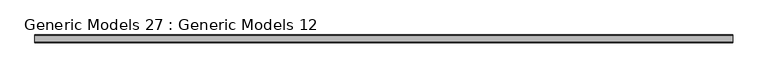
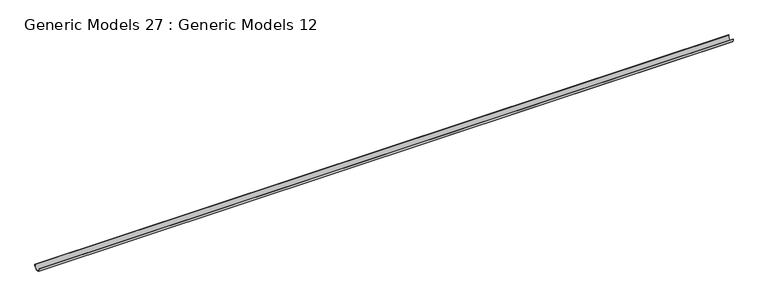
"""IFC4 building model written with IfcOpenShell, lengths in millimetres: proxy geometry, Generic Models 27 : Generic Models 12."""

import ifcopenshell
import ifcopenshell.guid

model = None  # the IFC model being written
_history = None  # IfcOwnerHistory: only IFC2X3 demands one
_inside = {}  # id of a spatial element -> (the spatial element, [elements in it])
_under = {}  # id of a project, library or spatial element -> (it, [spatial elements below it])
_declared = {}  # id of a project -> (the project, [libraries it declares])
_typed = {}  # id of a type object -> (the type object, [elements of that type])
_made_of = {}  # id of a material, layer set ... -> (it, [elements and type objects made of it])


def new_model(schema):
    """Start an empty IFC model of exactly this schema.

    Asked for "IFC4X3", IfcOpenShell would pick the latest addendum, in which some entities
    have other attributes; the version numbers below select the first issue.
    IFC2X3 requires an IfcOwnerHistory on every rooted entity: one is made here for all.
    """
    global model, _history
    if schema == "IFC4X3":
        model = ifcopenshell.file(schema_version=(4, 3, 0, 0))
    else:
        model = ifcopenshell.file(schema=schema)
    _inside.clear()
    _under.clear()
    _declared.clear()
    _typed.clear()
    _made_of.clear()
    _history = None
    if model.schema == "IFC2X3":
        org = make("IfcOrganization", Name="unknown")
        user = make(
            "IfcPersonAndOrganization",
            ThePerson=make("IfcPerson", FamilyName="unknown"),
            TheOrganization=org,
        )
        app = make(
            "IfcApplication",
            ApplicationDeveloper=org,
            Version="unknown",
            ApplicationFullName="unknown",
            ApplicationIdentifier="unknown",
        )
        _history = make(
            "IfcOwnerHistory",
            OwningUser=user,
            OwningApplication=app,
            ChangeAction="ADDED",
            CreationDate=0,
        )
    return model


def make(cls, **values):
    """One entity of the class cls with the attributes given. An attribute that is None is left unset."""
    return model.create_entity(
        cls, **{name: value for name, value in values.items() if value is not None}
    )


def rooted(cls, **values):
    """An entity with a GlobalId (a new one), such as an element, a storey or a relation."""
    return make(cls, GlobalId=ifcopenshell.guid.new(), OwnerHistory=_history, **values)


def si_unit(unit_type, name, prefix=None):
    """IfcSIUnit, for example si_unit("LENGTHUNIT", "METRE", prefix="MILLI")."""
    return make("IfcSIUnit", UnitType=unit_type, Prefix=prefix, Name=name)


def assignment(units):
    """IfcUnitAssignment: the units of a project."""
    return None if units is None else make("IfcUnitAssignment", Units=units)


def point(xyz):
    """IfcCartesianPoint."""
    return None if xyz is None else make("IfcCartesianPoint", Coordinates=xyz)


def direction(xyz):
    """IfcDirection."""
    return None if xyz is None else make("IfcDirection", DirectionRatios=xyz)


def frame(location, z_axis=None, x_axis=None):
    """IfcAxis2Placement3D, a coordinate frame: its origin and axes. An axis left out is left unset."""
    return make(
        "IfcAxis2Placement3D",
        Location=point(location),
        Axis=direction(z_axis),
        RefDirection=direction(x_axis),
    )


def frame_2d(location, x_axis=None):
    """IfcAxis2Placement2D, a coordinate frame in the plane: its origin and x axis."""
    return make(
        "IfcAxis2Placement2D", Location=point(location), RefDirection=direction(x_axis)
    )


def origin():
    """The frame at (0, 0, 0) with its axes left unset."""
    return frame((0.0, 0.0, 0.0))


def place(relative_to, where):
    """IfcLocalPlacement: puts the frame where relative to a parent placement (None: the world)."""
    return make(
        "IfcLocalPlacement", PlacementRelTo=relative_to, RelativePlacement=where
    )


def context(
    kind, dimensions, precision=None, world=None, true_north=None, identifier=None
):
    """IfcGeometricRepresentationContext, for example the 3D "Model" context."""
    return make(
        "IfcGeometricRepresentationContext",
        ContextIdentifier=identifier,
        ContextType=kind,
        CoordinateSpaceDimension=dimensions,
        Precision=precision,
        WorldCoordinateSystem=world,
        TrueNorth=true_north,
    )


def project(units=None, contexts=None):
    """IfcProject with its units and contexts."""
    return rooted(
        "IfcProject",
        Name="project",
        RepresentationContexts=contexts,
        UnitsInContext=assignment(units),
    )


def spatial(cls, under=None, at=None, **own):
    """A site, building, storey or space (cls), placed at a placement, below another one or the project."""
    s = rooted(cls, ObjectPlacement=at, **own)
    if under is not None:
        _under.setdefault(under.id(), (under, []))[1].append(s)
    return s


def polyline(points):
    """IfcPolyline through the points."""
    return make("IfcPolyline", Points=[point(p) for p in points])


def circle_curve(where, radius):
    """IfcCircle in the frame where."""
    return make("IfcCircle", Position=where, Radius=radius)


def trimmed(basis, trim1, trim2, sense, master):
    """IfcTrimmedCurve: the piece of a basis curve between two trims."""
    return make(
        "IfcTrimmedCurve",
        BasisCurve=basis,
        Trim1=trim1,
        Trim2=trim2,
        SenseAgreement=sense,
        MasterRepresentation=master,
    )


def segment(curve, same_sense, transition):
    """IfcCompositeCurveSegment."""
    return make(
        "IfcCompositeCurveSegment",
        Transition=transition,
        SameSense=same_sense,
        ParentCurve=curve,
    )


def composite_curve(segments, self_intersect=None):
    """IfcCompositeCurve: segments joined end to end."""
    return make("IfcCompositeCurve", Segments=segments, SelfIntersect=self_intersect)


def outline(outer, holes=None, kind="AREA"):
    """IfcArbitraryClosedProfileDef: a profile drawn as a closed curve; with holes, ...WithVoids."""
    if holes is None:
        return make("IfcArbitraryClosedProfileDef", ProfileType=kind, OuterCurve=outer)
    return make(
        "IfcArbitraryProfileDefWithVoids",
        ProfileType=kind,
        OuterCurve=outer,
        InnerCurves=holes,
    )


def extrude(swept, where, along, depth):
    """IfcExtrudedAreaSolid: the profile swept, set in the frame where, extruded along a direction by depth."""
    return make(
        "IfcExtrudedAreaSolid",
        SweptArea=swept,
        Position=where,
        ExtrudedDirection=direction(along),
        Depth=depth,
    )


def shape(context_of_items, identifier, shape_type, items):
    """IfcShapeRepresentation: the items that make up one representation, for example the "Body"."""
    return make(
        "IfcShapeRepresentation",
        ContextOfItems=context_of_items,
        RepresentationIdentifier=identifier,
        RepresentationType=shape_type,
        Items=items,
    )


def source(mapping_origin, context_of_items, identifier, shape_type, items):
    """IfcRepresentationMap: a shape defined once, which mapped items show again and again."""
    return make(
        "IfcRepresentationMap",
        MappingOrigin=mapping_origin,
        MappedRepresentation=shape(context_of_items, identifier, shape_type, items),
    )


def transform(
    local_origin,
    x_axis=None,
    y_axis=None,
    z_axis=None,
    scale=None,
    scale2=None,
    scale3=None,
    uniform=True,
):
    """IfcCartesianTransformationOperator3D, or its non-uniform kind. x_axis, y_axis, z_axis: its Axis1, 2, 3."""
    if uniform:
        return make(
            "IfcCartesianTransformationOperator3D",
            Axis1=direction(x_axis),
            Axis2=direction(y_axis),
            LocalOrigin=point(local_origin),
            Scale=scale,
            Axis3=direction(z_axis),
        )
    return make(
        "IfcCartesianTransformationOperator3DnonUniform",
        Axis1=direction(x_axis),
        Axis2=direction(y_axis),
        LocalOrigin=point(local_origin),
        Scale=scale,
        Axis3=direction(z_axis),
        Scale2=scale2,
        Scale3=scale3,
    )


def mapped(mapping_source, mapping_target):
    """IfcMappedItem: shows the shape of a source again, moved by a transform."""
    return make(
        "IfcMappedItem", MappingSource=mapping_source, MappingTarget=mapping_target
    )


def made_of(thing, what):
    """Note that an element or type object is made of a material, layer set ...; save() writes the relation."""
    if what is not None:
        _made_of.setdefault(what.id(), (what, []))[1].append(thing)
    return thing


def element(
    cls,
    number,
    at=None,
    inside=None,
    cuts=None,
    type_object=None,
    material=None,
    context=None,
    identifier="Body",
    shape_type=None,
    held_by="IfcProductDefinitionShape",
    body=None,
    shapes=None,
    **own,
):
    """One element of the class cls, such as IfcWall. Its Tag is "e" and its number.

    at: its placement. inside: the storey or other place that contains it. cuts: it is an
    opening in that element (IfcRelVoidsElement). A single representation is given by context,
    identifier, shape_type and body (its items); several are given by shapes. held_by: the class
    of the entity that holds the representations. save() writes the other relations.
    """
    e = rooted(cls, Tag="e%d" % number, ObjectPlacement=at, **own)
    if body is not None:
        shapes = [shape(context, identifier, shape_type, body)]
    if shapes is not None:
        e.Representation = make(held_by, Representations=shapes)
    if inside is not None:
        _inside.setdefault(inside.id(), (inside, []))[1].append(e)
    if cuts is not None:
        rooted(
            "IfcRelVoidsElement", RelatingBuildingElement=cuts, RelatedOpeningElement=e
        )
    if type_object is not None:
        _typed.setdefault(type_object.id(), (type_object, []))[1].append(e)
    return made_of(e, material)


def aggregate(whole, parts):
    """IfcRelAggregates: a whole, such as a stair, and the parts it consists of."""
    return rooted("IfcRelAggregates", RelatingObject=whole, RelatedObjects=parts)


def save(model, path):
    """Write the relations noted so far, then the file.

    IfcRelAggregates (storeys below a building ...), IfcRelContainedInSpatialStructure (elements
    in a storey), IfcRelDefinesByType, IfcRelAssociatesMaterial and IfcRelDeclares: one each for
    every whole, place, type object, material and project.
    """
    for whole, parts in _under.values():
        aggregate(whole, parts)
    for where, things in _inside.values():
        rooted(
            "IfcRelContainedInSpatialStructure",
            RelatedElements=things,
            RelatingStructure=where,
        )
    for kind, things in _typed.values():
        rooted("IfcRelDefinesByType", RelatedObjects=things, RelatingType=kind)
    for what, things in _made_of.values():
        rooted("IfcRelAssociatesMaterial", RelatedObjects=things, RelatingMaterial=what)
    for by, libraries in _declared.values():
        rooted("IfcRelDeclares", RelatingContext=by, RelatedDefinitions=libraries)
    model.write(path)


def generic_models_27_generic_models_12_64bb000c(model_context):
    return source(origin(), model_context, "Body", "SweptSolid", [
        extrude(outline(composite_curve([segment(polyline([(35860.5725725, 52876.2335475), (35880.7415564, 52876.2335475)]), True, "CONTINUOUS"), segment(trimmed(circle_curve(frame_2d((35483.9246413, 52825.8714993)), 400.0), [point((35880.7415564, 52876.2335475))], [point((35086.1277682, 52867.7958098))], False, "CARTESIAN"), True, "CONTINUOUS"), segment(polyline([(35086.1277682, 52867.7958098), (35106.2444165, 52867.7958098)]), True, "CONTINUOUS"), segment(trimmed(circle_curve(frame_2d((35483.9246413, 52825.8714993)), 380.0), [point((35106.2444165, 52867.7958098))], [point((35860.5725725, 52876.2335475))], True, "CARTESIAN"), True, "CONTINUOUS")], self_intersect=False)), frame((-152898.6902477, 0.0, 0.0), z_axis=(1.0, 0.0, 0.0), x_axis=(0.0, 1.0, 0.0)), (0.0, 0.0, 1.0), 71920.0762169),
    ])


if __name__ == "__main__":
    model = new_model("IFC4")
    model_context = context("Model", 3, world=origin())
    ifc_project = project(units=[si_unit("LENGTHUNIT", "METRE", prefix="MILLI")], contexts=[model_context])
    site = spatial("IfcSite", under=ifc_project)
    building = spatial("IfcBuilding", under=site)
    placement = place(None, origin())
    generic_models_27_generic_models_12_shape = generic_models_27_generic_models_12_64bb000c(model_context)
    element("IfcBuildingElementProxy", 1, Name="Generic Models 27 : Generic Models 12", ObjectType="Generic Models 27 : Generic Models 12", at=placement, inside=building, context=model_context, shape_type="MappedRepresentation", body=[
        mapped(generic_models_27_generic_models_12_shape, transform((0.0, 0.0, 0.0), x_axis=(1.0, 0.0, 0.0), y_axis=(0.0, 1.0, 0.0), z_axis=(0.0, 0.0, 1.0))),
    ])
    save(model, "model.ifc")
